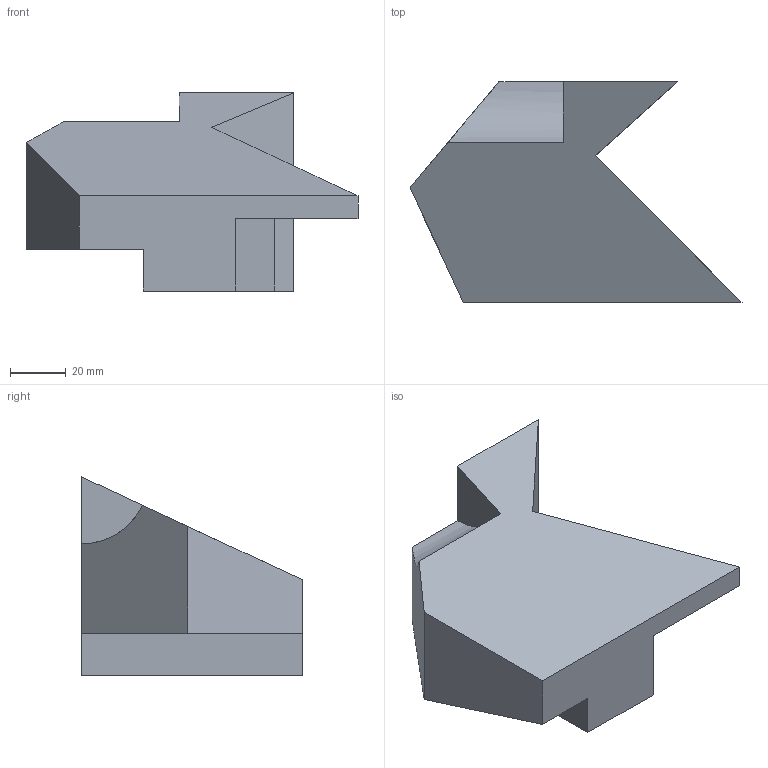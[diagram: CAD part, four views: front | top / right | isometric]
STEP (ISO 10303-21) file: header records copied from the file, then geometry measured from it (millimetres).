
FILE_DESCRIPTION(/* description */ (''),/* implementation_level */ '2;1');
FILE_NAME(/* name */ '750904R1001.stp',/* time_stamp */ '2025-09-20T10:16:29+09:00',/* author */ ('PC01-02'),/* organization */ (''),/* preprocessor_version */ 'ST-DEVELOPER v20',/* originating_system */ 'Autodesk Inventor 2025',/* authorisation */ '');
FILE_SCHEMA (('AUTOMOTIVE_DESIGN { 1 0 10303 214 3 1 1 }'));
Length unit declared in the file: millimetre
Products named in the file (1): 부품1
Bounding box: 119 x 79 x 71 mm (x, y, z)
Volume: 238031.3 mm3; surface area: 29341 mm2
Topology: 1 solids, 1 shells, 15 faces, 39 edges, 26 vertices
Faces by surface type: plane 14, cylinder 1
Entity records: 498 total; most frequent: CARTESIAN_POINT 81, ORIENTED_EDGE 78, DIRECTION 73, EDGE_CURVE 39, LINE 37, VECTOR 37, VERTEX_POINT 26, AXIS2_PLACEMENT_3D 18
